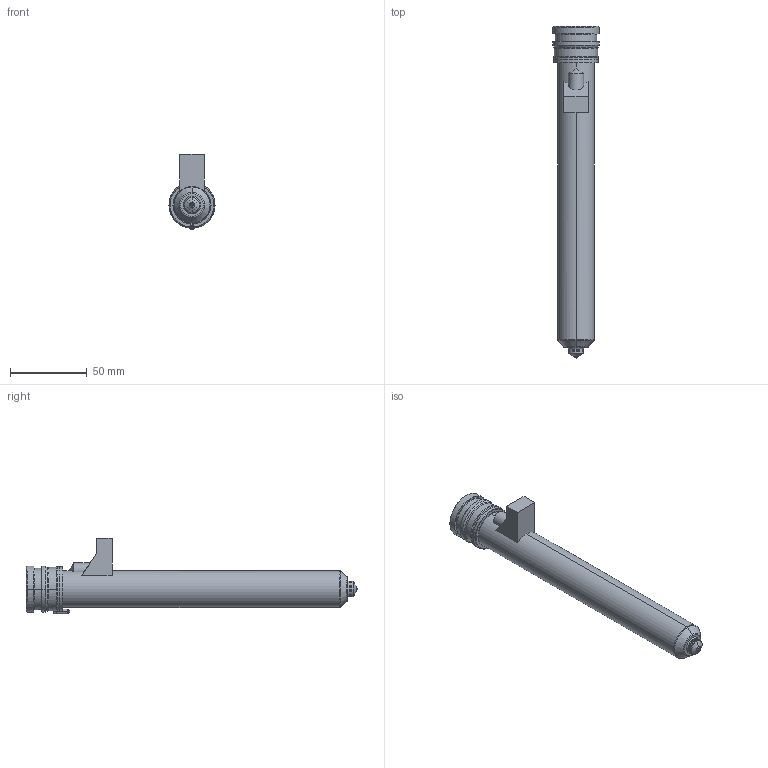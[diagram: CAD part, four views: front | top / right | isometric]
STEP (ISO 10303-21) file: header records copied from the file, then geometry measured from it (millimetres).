
FILE_DESCRIPTION((''),'2;1');
FILE_NAME('MPN-10-29-VSA10-196-M','2026-02-05T13:01:52',('UPTIO'),('Thermoplay S.p.A.'),'CREO PARAMETRIC BY PTC INC, 2023494','CREO PARAMETRIC BY PTC INC, 2023494','');
FILE_SCHEMA(('CONFIG_CONTROL_DESIGN','SHAPE_APPEARANCE_LAYERS_GROUPS'));
Length unit declared in the file: millimetre
Products named in the file (1): MPN-10-29-VSA10-196-M
Bounding box: 30 x 216 x 49 mm (x, y, z)
Volume: 67008.4 mm3; surface area: 68916.4 mm2
Topology: 3 solids, 5 shells, 546 faces, 1379 edges, 839 vertices
Faces by surface type: cylinder 181, plane 145, bspline 71, torus 69, cone 68, sphere 8, extrusion 4
Entity records: 28644 total; most frequent: CARTESIAN_POINT 12780, ORIENTED_EDGE 2744, DIRECTION 2618, EDGE_CURVE 1372, AXIS2_PLACEMENT_3D 1038, VERTEX_POINT 839, EDGE_LOOP 575, CIRCLE 566
